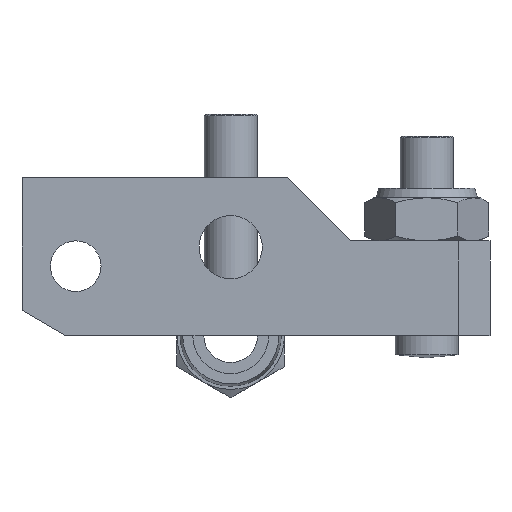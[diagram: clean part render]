
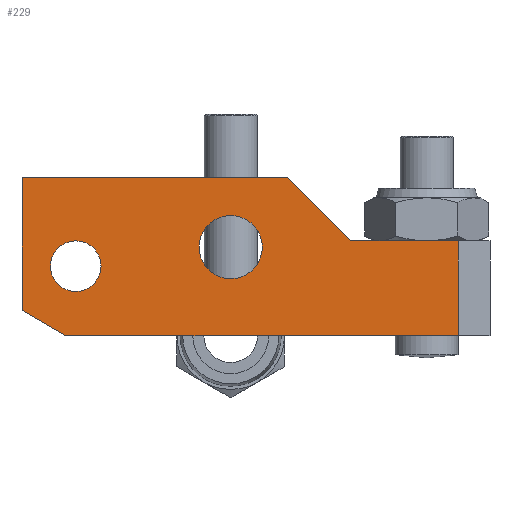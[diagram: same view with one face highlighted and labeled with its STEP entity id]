
A CAD part, front view. The second image highlights one B-rep face of the part: STEP entity #229.
In plain terms, the highlighted planar face has unit normal (0, -1, 0).
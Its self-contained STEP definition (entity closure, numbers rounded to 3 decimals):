
#229 = ADVANCED_FACE( '', ( #311, #312, #313 ), #314, .T. );
#311 = FACE_BOUND( '', #485, .T. );
#312 = FACE_BOUND( '', #486, .T. );
#313 = FACE_OUTER_BOUND( '', #487, .T. );
#314 = PLANE( '', #488 );
#485 = EDGE_LOOP( '', ( #700 ) );
#486 = EDGE_LOOP( '', ( #701 ) );
#487 = EDGE_LOOP( '', ( #702, #703, #704, #705, #706, #707, #708 ) );
#488 = AXIS2_PLACEMENT_3D( '', #709, #710, #711 );
#700 = ORIENTED_EDGE( '', *, *, #1202, .F. );
#701 = ORIENTED_EDGE( '', *, *, #1203, .F. );
#702 = ORIENTED_EDGE( '', *, *, #1197, .T. );
#703 = ORIENTED_EDGE( '', *, *, #1204, .T. );
#704 = ORIENTED_EDGE( '', *, *, #1205, .T. );
#705 = ORIENTED_EDGE( '', *, *, #1206, .T. );
#706 = ORIENTED_EDGE( '', *, *, #1191, .T. );
#707 = ORIENTED_EDGE( '', *, *, #1207, .T. );
#708 = ORIENTED_EDGE( '', *, *, #1208, .T. );
#709 = CARTESIAN_POINT( '', ( 41., -9.5, -38.724 ) );
#710 = DIRECTION( '', ( 0., -1., 0. ) );
#711 = DIRECTION( '', ( 0., 0., -1. ) );
#1191 = EDGE_CURVE( '', #1362, #1360, #1363, .T. );
#1197 = EDGE_CURVE( '', #1373, #1371, #1374, .T. );
#1202 = EDGE_CURVE( '', #1381, #1381, #1382, .T. );
#1203 = EDGE_CURVE( '', #1383, #1383, #1384, .T. );
#1204 = EDGE_CURVE( '', #1371, #1385, #1386, .T. );
#1205 = EDGE_CURVE( '', #1385, #1387, #1388, .T. );
#1206 = EDGE_CURVE( '', #1387, #1362, #1389, .T. );
#1207 = EDGE_CURVE( '', #1360, #1390, #1391, .T. );
#1208 = EDGE_CURVE( '', #1390, #1373, #1392, .T. );
#1360 = VERTEX_POINT( '', #1634 );
#1362 = VERTEX_POINT( '', #1637 );
#1363 = LINE( '', #1638, #1639 );
#1371 = VERTEX_POINT( '', #1650 );
#1373 = VERTEX_POINT( '', #1653 );
#1374 = LINE( '', #1654, #1655 );
#1381 = VERTEX_POINT( '', #1666 );
#1382 = CIRCLE( '', #1667, 4. );
#1383 = VERTEX_POINT( '', #1668 );
#1384 = CIRCLE( '', #1669, 5. );
#1385 = VERTEX_POINT( '', #1670 );
#1386 = LINE( '', #1671, #1672 );
#1387 = VERTEX_POINT( '', #1673 );
#1388 = LINE( '', #1674, #1675 );
#1389 = LINE( '', #1676, #1677 );
#1390 = VERTEX_POINT( '', #1678 );
#1391 = LINE( '', #1679, #1680 );
#1392 = LINE( '', #1681, #1682 );
#1634 = CARTESIAN_POINT( '', ( -33., -9.5, 25. ) );
#1637 = CARTESIAN_POINT( '', ( 9., -9.5, 25. ) );
#1638 = CARTESIAN_POINT( '', ( 9., -9.5, 25. ) );
#1639 = VECTOR( '', #2078, 1000. );
#1650 = CARTESIAN_POINT( '', ( 36., -9.5, 0. ) );
#1653 = CARTESIAN_POINT( '', ( -26.072, -9.5, 0. ) );
#1654 = CARTESIAN_POINT( '', ( -26.072, -9.5, 0. ) );
#1655 = VECTOR( '', #2086, 1000. );
#1666 = CARTESIAN_POINT( '', ( -20.5, -9.5, 11. ) );
#1667 = AXIS2_PLACEMENT_3D( '', #2091, #2092, #2093 );
#1668 = CARTESIAN_POINT( '', ( 5., -9.5, 14. ) );
#1669 = AXIS2_PLACEMENT_3D( '', #2094, #2095, #2096 );
#1670 = CARTESIAN_POINT( '', ( 36., -9.5, 15. ) );
#1671 = CARTESIAN_POINT( '', ( 36., -9.5, 15. ) );
#1672 = VECTOR( '', #2097, 1000. );
#1673 = CARTESIAN_POINT( '', ( 19., -9.5, 15. ) );
#1674 = CARTESIAN_POINT( '', ( 41., -9.5, 15. ) );
#1675 = VECTOR( '', #2098, 1000. );
#1676 = CARTESIAN_POINT( '', ( 19., -9.5, 15. ) );
#1677 = VECTOR( '', #2099, 1000. );
#1678 = CARTESIAN_POINT( '', ( -33., -9.5, 4. ) );
#1679 = CARTESIAN_POINT( '', ( -33., -9.5, 25. ) );
#1680 = VECTOR( '', #2100, 1000. );
#1681 = CARTESIAN_POINT( '', ( -33., -9.5, 4. ) );
#1682 = VECTOR( '', #2101, 1000. );
#2078 = DIRECTION( '', ( -1., 0., 0. ) );
#2086 = DIRECTION( '', ( 1., 0., 0. ) );
#2091 = CARTESIAN_POINT( '', ( -24.5, -9.5, 11. ) );
#2092 = DIRECTION( '', ( 0., -1., 0. ) );
#2093 = DIRECTION( '', ( 1., 0., 0. ) );
#2094 = CARTESIAN_POINT( '', ( 0., -9.5, 14. ) );
#2095 = DIRECTION( '', ( 0., -1., 0. ) );
#2096 = DIRECTION( '', ( 1., 0., 0. ) );
#2097 = DIRECTION( '', ( 0., 0., 1. ) );
#2098 = DIRECTION( '', ( -1., 0., 0. ) );
#2099 = DIRECTION( '', ( -0.707, 0., 0.707 ) );
#2100 = DIRECTION( '', ( 0., 0., -1. ) );
#2101 = DIRECTION( '', ( 0.866, 0., -0.5 ) );
